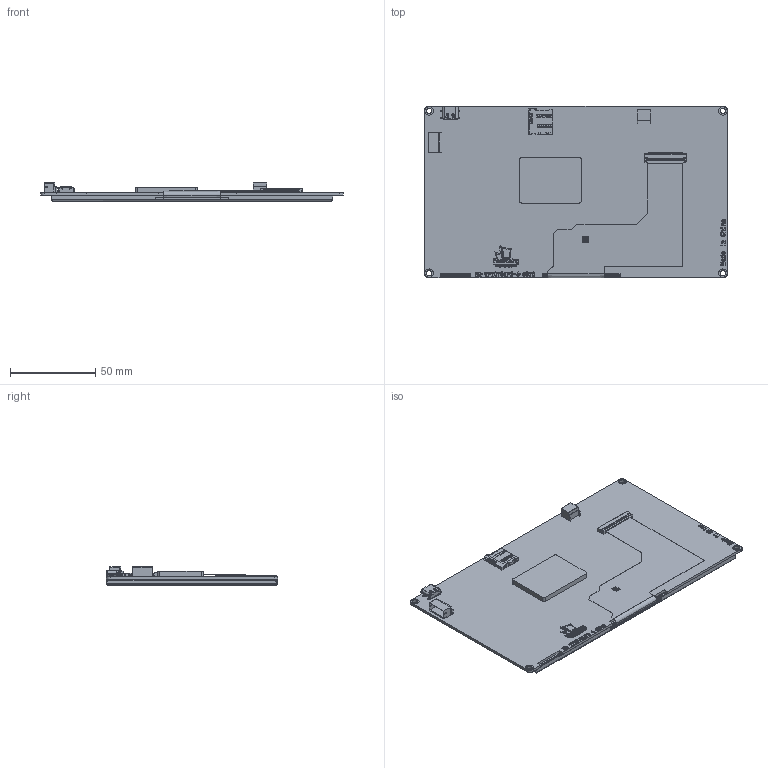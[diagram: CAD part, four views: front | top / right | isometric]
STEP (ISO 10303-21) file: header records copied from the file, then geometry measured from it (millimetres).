
FILE_DESCRIPTION (( 'STEP AP214' ), '1' );
FILE_NAME ('ER-TFT070IPS-4-5976.STEP', '2024-07-01T06:14:28', ( '微软用户' ), ( '微软中国' ), 'SwSTEP 2.0', 'SolidWorks 2023', '' );
FILE_SCHEMA (( 'AUTOMOTIVE_DESIGN' ));
Length unit declared in the file: millimetre
Products named in the file (8): ER-TFT070IPS-4; FPC Connector_0.5-40P; 2.0-2P; ER-TFT070IPS-4-5976; USB_type_C_; PCBA7寸; ER-microSD; 2.0-4P
Assembly tree (7 placements, depth 2):
  ER-TFT070IPS-4-5976
    PCBA7寸
    ER-TFT070IPS-4
    2.0-4P
    USB_type_C_
    2.0-2P
    ER-microSD
    FPC Connector_0.5-40P
Bounding box: 177 x 100.35 x 10.6 mm (x, y, z)
Volume: 85093.2 mm3; surface area: 123212.6 mm2
Topology: 153 solids, 153 shells, 3622 faces, 9258 edges, 6075 vertices
Faces by surface type: plane 2660, bspline 508, cylinder 422, torus 32
Entity records: 154636 total; most frequent: CARTESIAN_POINT 42876, ORIENTED_EDGE 18468, DIRECTION 15081, EDGE_CURVE 9234, VECTOR 7313, LINE 7313, VERTEX_POINT 6075, EDGE_LOOP 3885
